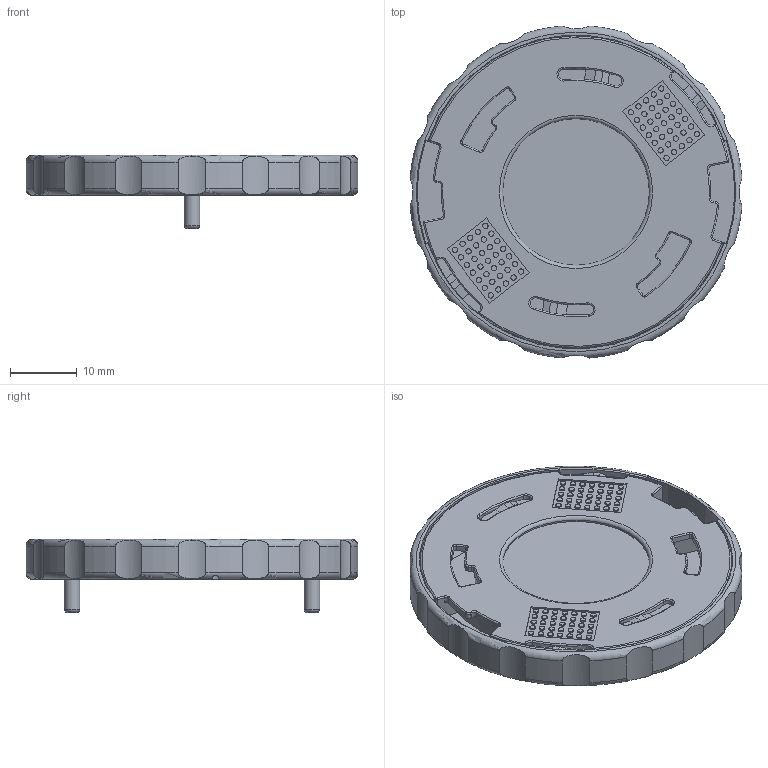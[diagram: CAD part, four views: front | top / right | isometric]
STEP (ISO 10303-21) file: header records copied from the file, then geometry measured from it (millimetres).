
FILE_DESCRIPTION(/* description */ ('Unknown'),/* implementation_level */ '2;1');
FILE_NAME(/* name */ '023-700-03',/* time_stamp */ '2024-04-22T08:46:32+02:00',/* author */ ('Unknown'),/* organization */ ('Unknown'),/* preprocessor_version */ 'ST-DEVELOPER v16.7',/* originating_system */ 'Solid Edge',/* authorisation */ 'Unknown');
FILE_SCHEMA (('AUTOMOTIVE_DESIGN {1 0 10303 214 3 1 1}'));
Length unit declared in the file: millimetre
Products named in the file (1): 023-700-03
Bounding box: 49.83 x 49.83 x 11 mm (x, y, z)
Volume: 5791.4 mm3; surface area: 11227.6 mm2
Topology: 2 solids, 2 shells, 1331 faces, 3490 edges, 2274 vertices
Faces by surface type: plane 846, cylinder 269, torus 89, cone 87, bspline 32, sphere 8
Full cylindrical faces by diameter (mm): 0.8 x70, 1.2 x2, 2.35 x4, 2.4 x2, 3.95 x2, 4 x2, 4.728 x2, 22 x1, 25.5 x1
Entity records: 41680 total; most frequent: CARTESIAN_POINT 9234, ORIENTED_EDGE 6680, DIRECTION 6600, EDGE_CURVE 3340, AXIS2_PLACEMENT_3D 2275, VERTEX_POINT 2252, LINE 2050, VECTOR 2050
